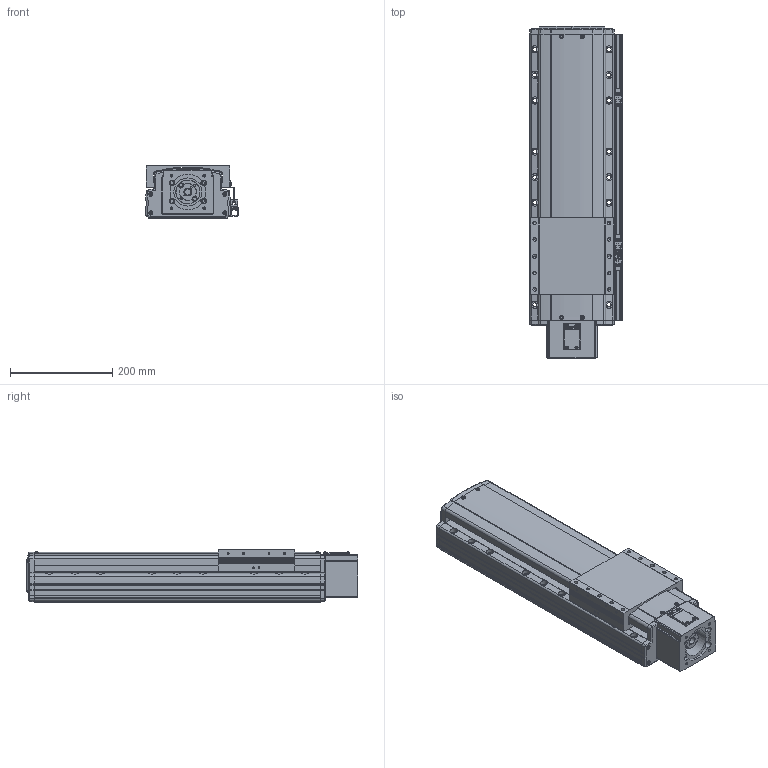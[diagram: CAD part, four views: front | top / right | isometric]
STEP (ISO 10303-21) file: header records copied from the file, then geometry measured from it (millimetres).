
FILE_DESCRIPTION(('STEP AP214'),'1');
FILE_NAME('Z:/Web/3D/PSA165/STP/PSA165-300 (3D)/PSA165ㅁㅁ-300S+3SR.stp','2014-06-23T09:25:08',(' '),(' '),'Spatial InterOp 3D',' ',' ');
FILE_SCHEMA(('automotive_design'));
Length unit declared in the file: millimetre
Products named in the file (85): 스크루 : Round - M4.0 x 12.0; RRCV-PA160; BASE; 스크루 : Round - M4.0 x 10.0; RN15; Screw 20; SLIDE; FRCV; 스크루 : Socket - M6.0 x 25.0; MTHZ-SAN150-80A; SSFX-SAN65; CPLCV-SAN65; 스크루 : Round - M3.0 x 6.0; SDWA47C(2); SDWA47C(3-1); SDWA47C(3); SDWA47C(1); SDWA47C(4); SDWA47C(5); M3.0 x 6.0; SRL-16x17-360L; SGD-SAN150; EE-SX674; SBK-SX674-352; BHCS M4.0 x 10.0
Bounding box: 181 x 649.8 x 104 mm (x, y, z)
Volume: 8690111.6 mm3; surface area: 775088.2 mm2
Topology: 85 solids, 85 shells, 3421 faces, 9071 edges, 5865 vertices
Faces by surface type: plane 1731, cylinder 1192, cone 369, sphere 70, bspline 35, torus 24
Entity records: 139585 total; most frequent: CARTESIAN_POINT 23720, DIRECTION 18895, ORIENTED_EDGE 17862, EDGE_CURVE 8931, AXIS2_PLACEMENT_3D 6730, VERTEX_POINT 5865, LINE 5435, VECTOR 5435
